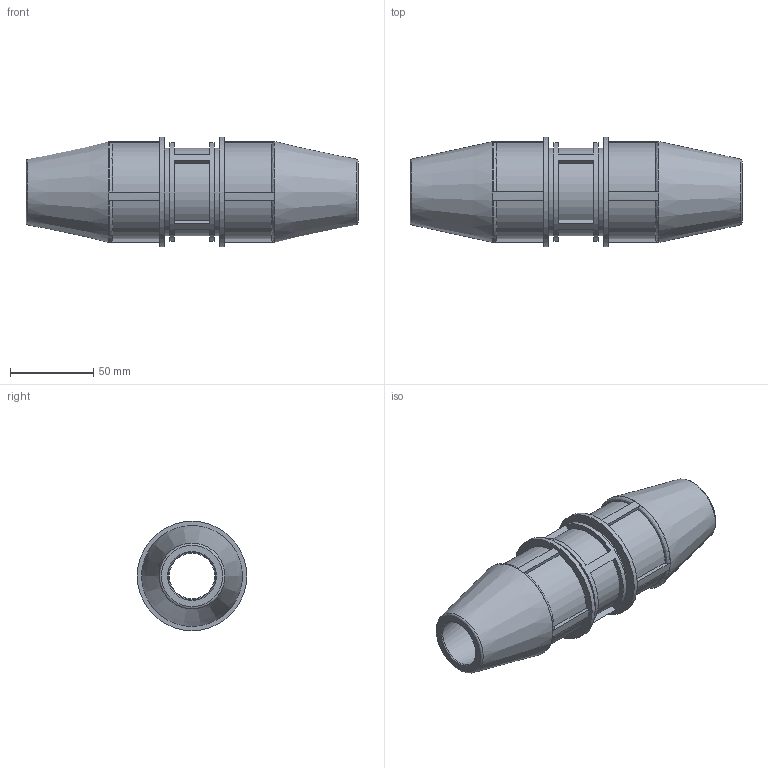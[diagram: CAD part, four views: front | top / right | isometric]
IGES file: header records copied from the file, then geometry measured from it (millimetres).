
Global section: file name: 176100024028_196100024028.ipt; native system: Autodesk Inventor 2015; preprocessor: unknown; author: KIM; date: 20180211.125758; units: millimetre
Bounding box: 200 x 66 x 66 mm (x, y, z)
Volume: 305707.3 mm3; surface area: 64066.1 mm2
Topology: 1 solids, 1 shells, 86 faces, 221 edges, 148 vertices
Faces by surface type: plane 50, cylinder 19, revolution 15, cone 2
Full cylindrical faces by diameter (mm): 52.8 x2, 59.4 x1, 60.72 x2, 66 x2
